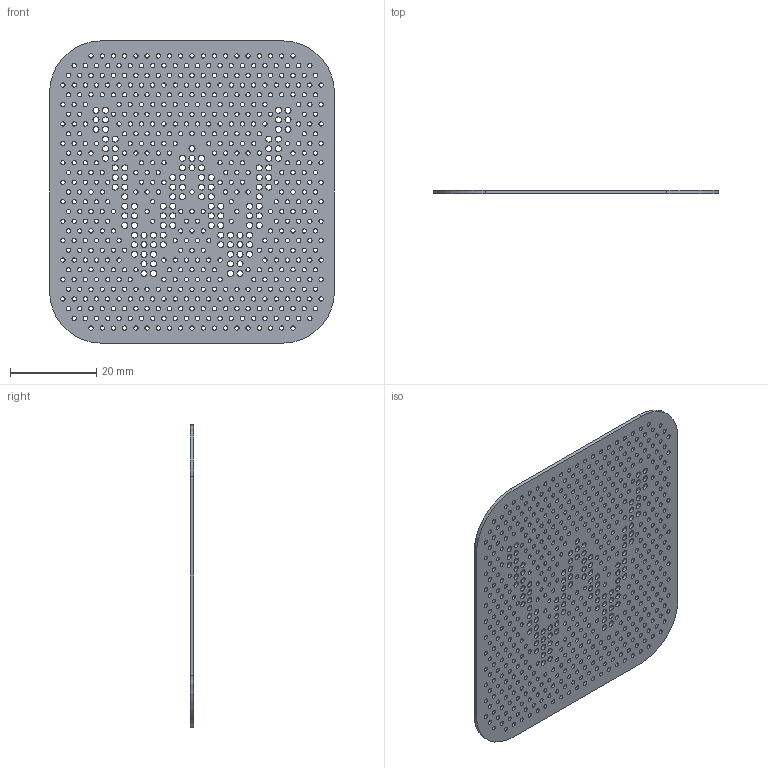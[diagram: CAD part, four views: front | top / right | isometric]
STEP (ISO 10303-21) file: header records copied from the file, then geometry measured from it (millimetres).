
FILE_DESCRIPTION(('Open CASCADE Model'),'2;1');
FILE_NAME('03_GRILLE_304SS_0p8','2026-09-06T11:49:08',('Author'),( 'Open CASCADE'),'Open CASCADE STEP processor 7.8','build123d', 'Unknown');
FILE_SCHEMA(('AUTOMOTIVE_DESIGN { 1 0 10303 214 1 1 1 1 }'));
Length unit declared in the file: millimetre
Products named in the file (2): =>[0:1:1:2]; 03_GRILLE_304SS_0p8
Assembly tree (1 placements, depth 2):
  =>[0:1:1:2]
    03_GRILLE_304SS_0p8
Bounding box: 66 x 0.8 x 70 mm (x, y, z)
Volume: 3125.5 mm3; surface area: 9745.1 mm2
Topology: 1 solids, 1 shells, 654 faces, 1956 edges, 1304 vertices
Faces by surface type: cylinder 648, plane 6
Full cylindrical faces by diameter (mm): 1 x533, 1.4 x111
Entity records: 50868 total; most frequent: DIRECTION 8476, CARTESIAN_POINT 7828, ORIENTED_EDGE 3912, PCURVE 3912, DEFINITIONAL_REPRESENTATION 3912, LINE 3276, VECTOR 3276, CIRCLE 2592
